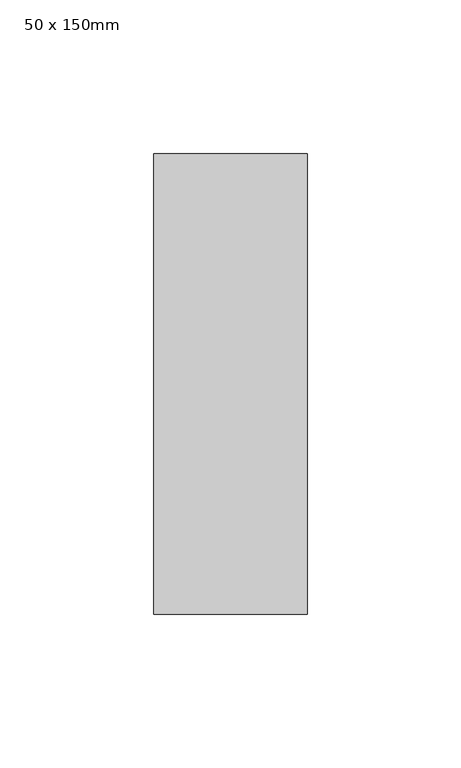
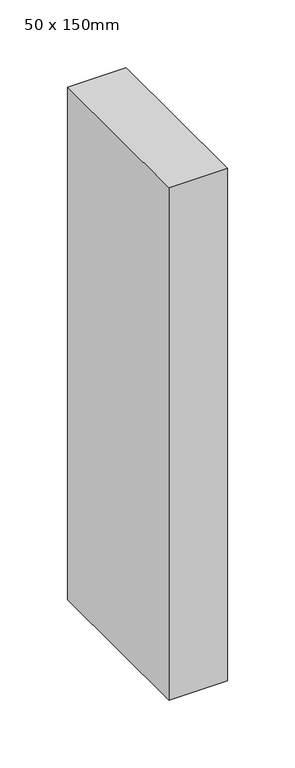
"""IFC4 building model written with IfcOpenShell, lengths in millimetres: member geometry, Prostokątny szpros : 50 x 150mm."""

from ifc_helpers import new_model, si_unit, frame, origin, place, context, project, spatial, polyline, outline, extrude, source, transform, mapped, element, save


def member_50_x_150mm_1096f1fa(model_context):
    return source(origin(), model_context, "Body", "SweptSolid", [
        extrude(outline(polyline([(0.0, 75.0), (0.0, -75.0), (-50.0, -75.0), (-50.0, 75.0), (0.0, 75.0)])), frame((0.0, 0.0, -462.5000001), z_axis=(0.0, 0.0, 1.0), x_axis=(1.0, 0.0, 0.0)), (0.0, 0.0, 1.0), 462.5000001),
    ])


if __name__ == "__main__":
    model = new_model("IFC4")
    model_context = context("Model", 3, world=origin())
    ifc_project = project(units=[si_unit("LENGTHUNIT", "METRE", prefix="MILLI")], contexts=[model_context])
    site = spatial("IfcSite", under=ifc_project)
    building = spatial("IfcBuilding", under=site)
    placement = place(None, origin())
    member_50_x_150mm_shape = member_50_x_150mm_1096f1fa(model_context)
    element("IfcMember", 1, ObjectType="Prostokątny szpros : 50 x 150mm", at=placement, inside=building, context=model_context, shape_type="MappedRepresentation", body=[
        mapped(member_50_x_150mm_shape, transform((0.0, 0.0, 0.0), x_axis=(1.0, 0.0, 0.0), y_axis=(0.0, 1.0, 0.0), z_axis=(0.0, 0.0, 1.0))),
    ])
    save(model, "model.ifc")
